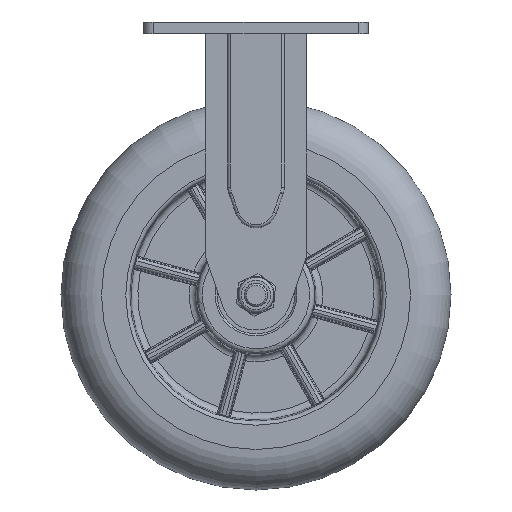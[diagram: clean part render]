
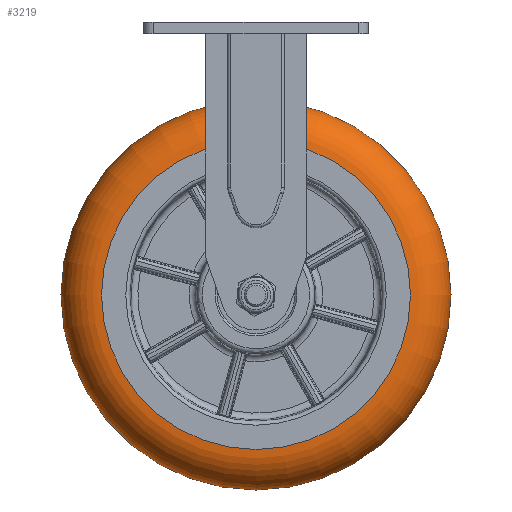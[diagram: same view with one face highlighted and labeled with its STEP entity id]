
A CAD part, front view. The second image highlights one B-rep face of the part: STEP entity #3219.
In plain terms, the highlighted toroidal (fillet/blend) face has major radius 79.237 mm and minor radius 20.763 mm.
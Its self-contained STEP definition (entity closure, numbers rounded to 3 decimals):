
#3173=TOROIDAL_SURFACE('',#12335,79.237,20.763);
#3219=ADVANCED_FACE('',(#4117,#4118),#3173,.T.);
#4117=FACE_BOUND('',#4251,.T.);
#4118=FACE_BOUND('',#4252,.T.);
#4251=EDGE_LOOP('',(#5097));
#4252=EDGE_LOOP('',(#5098));
#5097=ORIENTED_EDGE('',*,*,#9944,.T.);
#5098=ORIENTED_EDGE('',*,*,#9942,.F.);
#8793=VERTEX_POINT('',#16059);
#8795=VERTEX_POINT('',#16064);
#9942=EDGE_CURVE('',#8793,#8793,#11791,.T.);
#9944=EDGE_CURVE('',#8795,#8795,#11793,.T.);
#11791=CIRCLE('',#12331,100.);
#11793=CIRCLE('',#12334,79.237);
#12331=AXIS2_PLACEMENT_3D('',#16058,#13404,#13405);
#12334=AXIS2_PLACEMENT_3D('',#16063,#13410,#13411);
#12335=AXIS2_PLACEMENT_3D('',#16065,#13412,#13413);
#13404=DIRECTION('',(0.,1.,0.));
#13405=DIRECTION('',(-1.,0.,0.));
#13410=DIRECTION('',(0.,1.,0.));
#13411=DIRECTION('',(-1.,0.,0.));
#13412=DIRECTION('',(0.,-1.,0.));
#13413=DIRECTION('',(-1.,0.,0.));
#16058=CARTESIAN_POINT('',(-0.024,-3.637,-140.));
#16059=CARTESIAN_POINT('',(-100.024,-3.637,-140.));
#16063=CARTESIAN_POINT('',(-0.024,-24.4,-140.));
#16064=CARTESIAN_POINT('',(-79.261,-24.4,-140.));
#16065=CARTESIAN_POINT('',(-0.024,-3.637,-140.));
